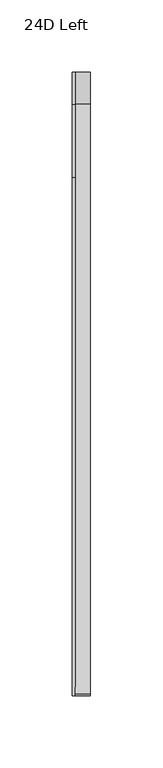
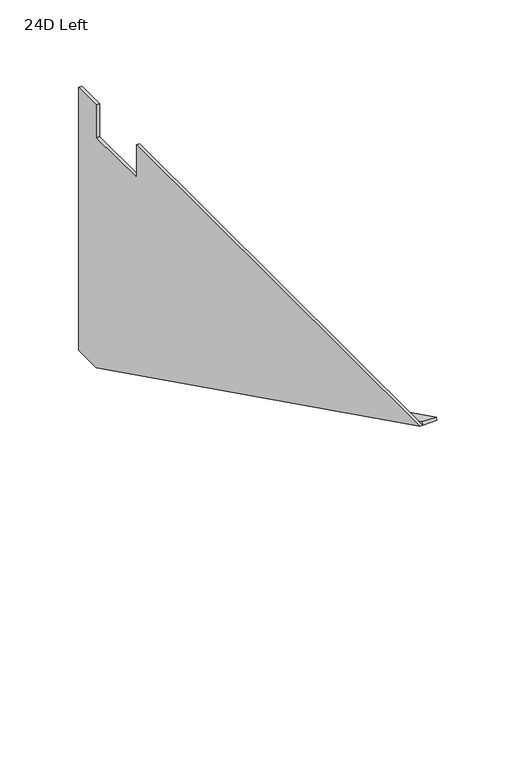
"""IFC4 building model written with IfcOpenShell, lengths in millimetres: furniture geometry, HermanMiller_Ethospace_E2393_WorkSurfaceSupport : 24D Left."""

from ifc_helpers import new_model, si_unit, frame, origin, place, context, project, spatial, polyline, outline, extrude, source, transform, mapped, element, save


def furniture_24d_left_781ecdd2(model_context):
    return source(origin(), model_context, "Body", "SweptSolid", [
        extrude(outline(polyline([(254.0, 505.5235), (254.0, 503.2375), (231.775, 503.2375), (-178.0807823, 706.4375), (-177.0653655, 708.4856027), (232.3105764, 505.5235), (254.0, 505.5235)])), frame((2.286, 0.0, 0.0), z_axis=(1.0, 0.0, 0.0), x_axis=(0.0, 1.0, 0.0)), (0.0, 0.0, 1.0), 10.414),
        extrude(outline(polyline([(254.0, 706.4375), (254.0, 503.2375), (231.775, 503.2375), (-178.0807823, 706.4375), (180.975, 706.4375), (180.975, 681.0375), (231.775, 681.0375), (231.775, 706.4375), (254.0, 706.4375)])), frame((0.0, 0.0, 0.0), z_axis=(1.0, 0.0, 0.0), x_axis=(0.0, 1.0, 0.0)), (0.0, 0.0, 1.0), 2.286),
    ])


if __name__ == "__main__":
    model = new_model("IFC4")
    model_context = context("Model", 3, world=origin())
    ifc_project = project(units=[si_unit("LENGTHUNIT", "METRE", prefix="MILLI")], contexts=[model_context])
    site = spatial("IfcSite", under=ifc_project)
    building = spatial("IfcBuilding", under=site)
    placement = place(None, origin())
    furniture_24d_left_shape = furniture_24d_left_781ecdd2(model_context)
    element("IfcFurniture", 1, ObjectType="HermanMiller_Ethospace_E2393_WorkSurfaceSupport : 24D Left", at=placement, inside=building, context=model_context, shape_type="MappedRepresentation", body=[
        mapped(furniture_24d_left_shape, transform((0.0, 0.0, 0.0), x_axis=(1.0, 0.0, 0.0), y_axis=(0.0, 1.0, 0.0), z_axis=(0.0, 0.0, 1.0))),
    ])
    save(model, "model.ifc")
